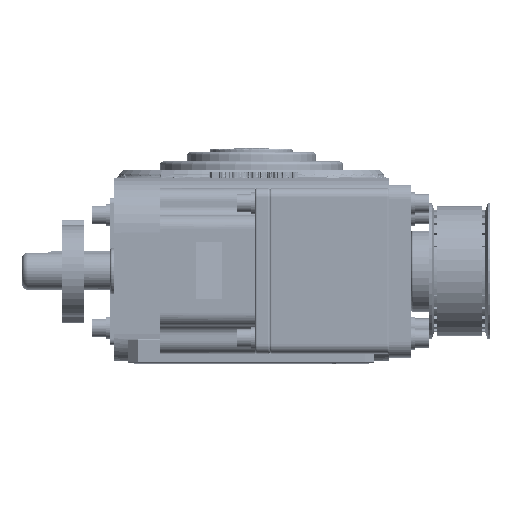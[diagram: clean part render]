
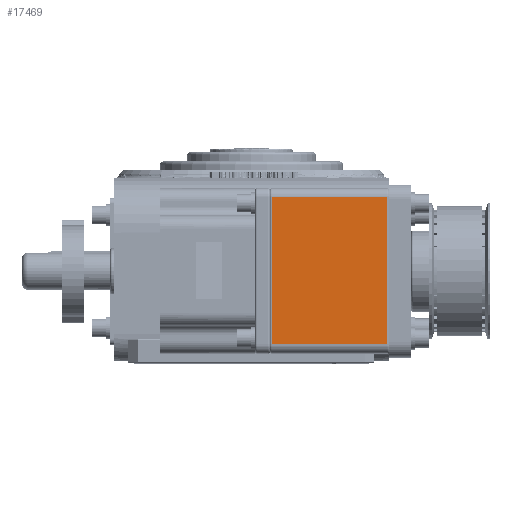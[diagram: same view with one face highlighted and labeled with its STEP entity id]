
A CAD part, top view. The second image highlights one B-rep face of the part: STEP entity #17469.
In plain terms, the highlighted planar face has unit normal (0, 0, 1).
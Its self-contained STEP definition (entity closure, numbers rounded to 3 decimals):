
#1643 = VECTOR ( 'NONE', #93145, 1000. ) ;
#2693 = VERTEX_POINT ( 'NONE', #146722 ) ;
#6213 = CARTESIAN_POINT ( 'NONE',  ( 74., 10., 238. ) ) ;
#13145 = LINE ( 'NONE', #104893, #82057 ) ;
#13942 = CARTESIAN_POINT ( 'NONE',  ( 11., 10., 238. ) ) ;
#17469 = ADVANCED_FACE ( 'NONE', ( #75147 ), #57085, .F. ) ;
#18103 = CARTESIAN_POINT ( 'NONE',  ( 10., 90., 238. ) ) ;
#20114 = LINE ( 'NONE', #114696, #119208 ) ;
#27444 = DIRECTION ( 'NONE',  ( 1., 0., 0. ) ) ;
#40310 = AXIS2_PLACEMENT_3D ( 'NONE', #18103, #147324, #70076 ) ;
#43782 = VERTEX_POINT ( 'NONE', #115749 ) ;
#50205 = DIRECTION ( 'NONE',  ( 0., 1., 0. ) ) ;
#57085 = PLANE ( 'NONE',  #40310 ) ;
#59300 = EDGE_CURVE ( 'NONE', #2693, #105752, #135089, .T. ) ;
#61515 = LINE ( 'NONE', #151447, #87869 ) ;
#61550 = EDGE_CURVE ( 'NONE', #105752, #138552, #61515, .T. ) ;
#61647 = ORIENTED_EDGE ( 'NONE', *, *, #148864, .F. ) ;
#70076 = DIRECTION ( 'NONE',  ( -1., 0., 0. ) ) ;
#75147 = FACE_OUTER_BOUND ( 'NONE', #165643, .T. ) ;
#82057 = VECTOR ( 'NONE', #27444, 1000. ) ;
#87869 = VECTOR ( 'NONE', #165954, 1000. ) ;
#93145 = DIRECTION ( 'NONE',  ( 0., -1., 0. ) ) ;
#94572 = ORIENTED_EDGE ( 'NONE', *, *, #61550, .T. ) ;
#103890 = EDGE_CURVE ( 'NONE', #138552, #43782, #20114, .T. ) ;
#104893 = CARTESIAN_POINT ( 'NONE',  ( 10., 90., 238. ) ) ;
#105752 = VERTEX_POINT ( 'NONE', #153821 ) ;
#108910 = ORIENTED_EDGE ( 'NONE', *, *, #103890, .T. ) ;
#114696 = CARTESIAN_POINT ( 'NONE',  ( 74., 90., 238. ) ) ;
#115749 = CARTESIAN_POINT ( 'NONE',  ( 74., 90., 238. ) ) ;
#119208 = VECTOR ( 'NONE', #50205, 1000. ) ;
#135089 = LINE ( 'NONE', #13942, #1643 ) ;
#138552 = VERTEX_POINT ( 'NONE', #6213 ) ;
#146722 = CARTESIAN_POINT ( 'NONE',  ( 11., 90., 238. ) ) ;
#147324 = DIRECTION ( 'NONE',  ( 0., 0., -1. ) ) ;
#148864 = EDGE_CURVE ( 'NONE', #2693, #43782, #13145, .T. ) ;
#151447 = CARTESIAN_POINT ( 'NONE',  ( 10., 10., 238. ) ) ;
#153821 = CARTESIAN_POINT ( 'NONE',  ( 11., 10., 238. ) ) ;
#162241 = ORIENTED_EDGE ( 'NONE', *, *, #59300, .T. ) ;
#165643 = EDGE_LOOP ( 'NONE', ( #61647, #162241, #94572, #108910 ) ) ;
#165954 = DIRECTION ( 'NONE',  ( 1., 0., 0. ) ) ;
